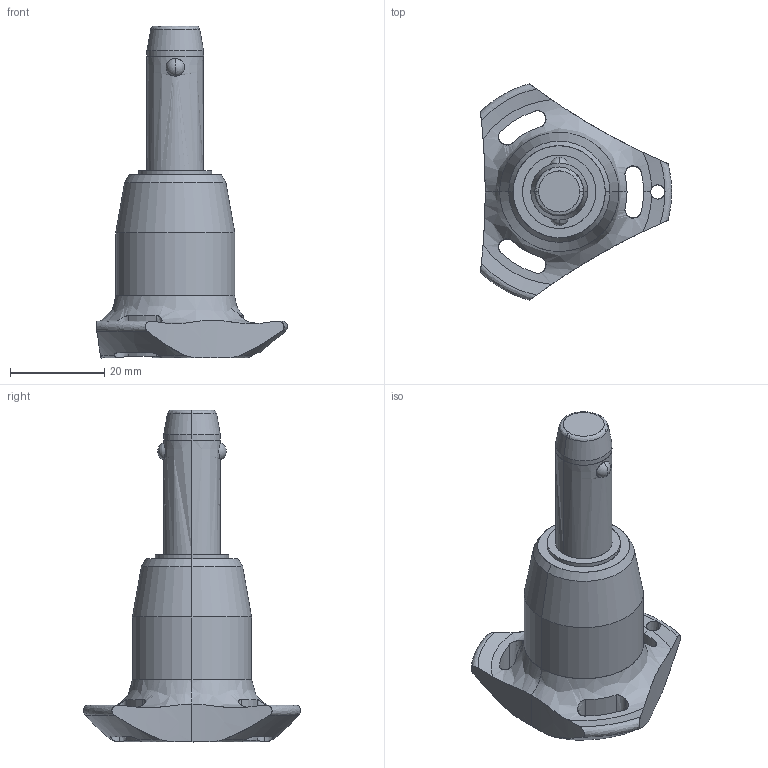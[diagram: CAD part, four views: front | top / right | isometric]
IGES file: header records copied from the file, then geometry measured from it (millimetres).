
Start section: SolidWorks IGES file using analytic representation for surfaces
Global section: file name: C:\Users\ianosborn\Desktop\QR1716_v2\QR1716_v2_20251114_IGES\QR1716.M12-020-T.igs; native system: SolidWorks 2019; preprocessor: SolidWorks 2019; author: IanOsborn; date: 251113.103530; units: millimetre
Bounding box: 40.5 x 45.88 x 70.3 mm (x, y, z)
Surface area: 7027.3 mm2 (no closed solid volume)
Topology: 0 solids, 0 shells, 68 faces, 1386 edges, 1382 vertices
Faces by surface type: revolution 52, bspline 16
